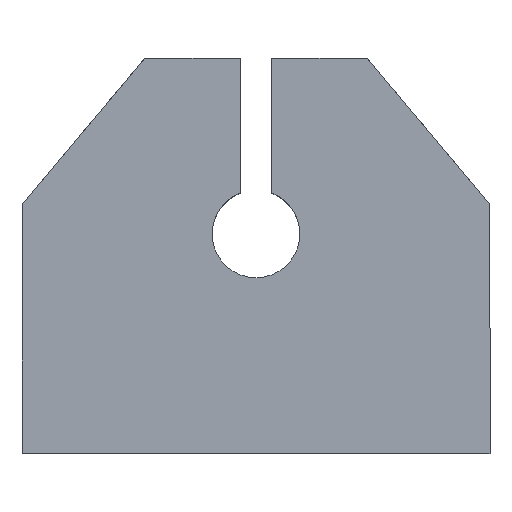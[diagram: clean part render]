
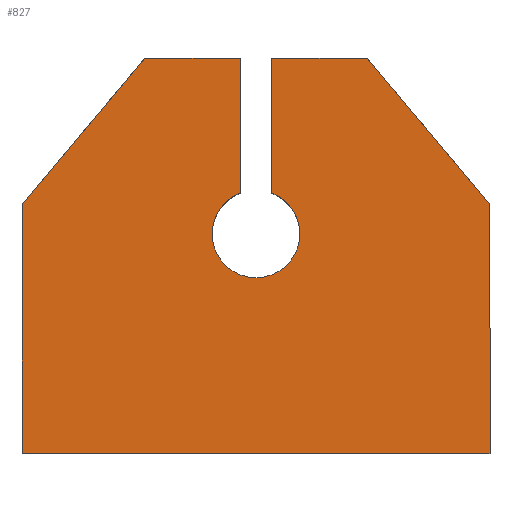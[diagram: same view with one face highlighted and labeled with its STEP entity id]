
A CAD part, top view. The second image highlights one B-rep face of the part: STEP entity #827.
In plain terms, the highlighted planar face has unit normal (0, 0, 1).
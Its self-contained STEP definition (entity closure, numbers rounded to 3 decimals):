
#15 = AXIS2_PLACEMENT_3D ( 'NONE', #86, #574, #474 ) ;
#26 = DIRECTION ( 'NONE',  ( 0., 0., 1. ) ) ;
#33 = DIRECTION ( 'NONE',  ( -0.643, 0.766, 0. ) ) ;
#41 = CARTESIAN_POINT ( 'NONE',  ( 0., 1.5, 8. ) ) ;
#46 = VERTEX_POINT ( 'NONE', #784 ) ;
#50 = ORIENTED_EDGE ( 'NONE', *, *, #386, .T. ) ;
#59 = VERTEX_POINT ( 'NONE', #680 ) ;
#62 = CARTESIAN_POINT ( 'NONE',  ( -3., 1.5, 8. ) ) ;
#82 = VERTEX_POINT ( 'NONE', #103 ) ;
#86 = CARTESIAN_POINT ( 'NONE',  ( 0., 1.5, 8. ) ) ;
#90 = VECTOR ( 'NONE', #407, 1000. ) ;
#103 = CARTESIAN_POINT ( 'NONE',  ( 3., 1.5, 8. ) ) ;
#134 = VECTOR ( 'NONE', #33, 1000. ) ;
#136 = DIRECTION ( 'NONE',  ( -1., 0., 0. ) ) ;
#141 = ORIENTED_EDGE ( 'NONE', *, *, #1054, .F. ) ;
#147 = CARTESIAN_POINT ( 'NONE',  ( -11.113, 9.325, 8. ) ) ;
#156 = VERTEX_POINT ( 'NONE', #603 ) ;
#181 = ORIENTED_EDGE ( 'NONE', *, *, #925, .F. ) ;
#214 = DIRECTION ( 'NONE',  ( 0., -1., 0. ) ) ;
#221 = DIRECTION ( 'NONE',  ( 1., 0., 0. ) ) ;
#224 = CARTESIAN_POINT ( 'NONE',  ( 0., 0., 8. ) ) ;
#231 = VECTOR ( 'NONE', #1096, 1000. ) ;
#249 = AXIS2_PLACEMENT_3D ( 'NONE', #1002, #26, #221 ) ;
#251 = EDGE_CURVE ( 'NONE', #593, #82, #478, .T. ) ;
#263 = VERTEX_POINT ( 'NONE', #781 ) ;
#306 = LINE ( 'NONE', #519, #622 ) ;
#324 = CARTESIAN_POINT ( 'NONE',  ( -16., -13.5, 8. ) ) ;
#327 = CARTESIAN_POINT ( 'NONE',  ( -1.075, 4.301, 8. ) ) ;
#331 = ORIENTED_EDGE ( 'NONE', *, *, #548, .T. ) ;
#332 = LINE ( 'NONE', #147, #616 ) ;
#333 = CARTESIAN_POINT ( 'NONE',  ( -16., 13.5, 8. ) ) ;
#335 = CARTESIAN_POINT ( 'NONE',  ( 7.609, 13.5, 8. ) ) ;
#376 = ORIENTED_EDGE ( 'NONE', *, *, #778, .T. ) ;
#386 = EDGE_CURVE ( 'NONE', #928, #1034, #711, .T. ) ;
#401 = CARTESIAN_POINT ( 'NONE',  ( 16., -13.5, 8. ) ) ;
#407 = DIRECTION ( 'NONE',  ( 0., 1., 0. ) ) ;
#418 = DIRECTION ( 'NONE',  ( -1., 0., 0. ) ) ;
#446 = CARTESIAN_POINT ( 'NONE',  ( -1.075, 13.5, 8. ) ) ;
#457 = AXIS2_PLACEMENT_3D ( 'NONE', #41, #613, #712 ) ;
#464 = ORIENTED_EDGE ( 'NONE', *, *, #589, .T. ) ;
#474 = DIRECTION ( 'NONE',  ( 1., 0., 0. ) ) ;
#478 = CIRCLE ( 'NONE', #15, 3. ) ;
#519 = CARTESIAN_POINT ( 'NONE',  ( -16., 13.5, 8. ) ) ;
#527 = CARTESIAN_POINT ( 'NONE',  ( 1.075, 13.5, 8. ) ) ;
#548 = EDGE_CURVE ( 'NONE', #59, #46, #332, .T. ) ;
#564 = VERTEX_POINT ( 'NONE', #446 ) ;
#574 = DIRECTION ( 'NONE',  ( 0., 0., 1. ) ) ;
#589 = EDGE_CURVE ( 'NONE', #46, #928, #1039, .T. ) ;
#593 = VERTEX_POINT ( 'NONE', #62 ) ;
#603 = CARTESIAN_POINT ( 'NONE',  ( 16., 3.5, 8. ) ) ;
#613 = DIRECTION ( 'NONE',  ( 0., 0., 1. ) ) ;
#615 = LINE ( 'NONE', #527, #706 ) ;
#616 = VECTOR ( 'NONE', #628, 1000. ) ;
#622 = VECTOR ( 'NONE', #418, 1000. ) ;
#628 = DIRECTION ( 'NONE',  ( -0.643, -0.766, 0. ) ) ;
#680 = CARTESIAN_POINT ( 'NONE',  ( -7.609, 13.5, 8. ) ) ;
#700 = LINE ( 'NONE', #1007, #767 ) ;
#706 = VECTOR ( 'NONE', #812, 1000. ) ;
#711 = LINE ( 'NONE', #813, #231 ) ;
#712 = DIRECTION ( 'NONE',  ( 1., 0., 0. ) ) ;
#713 = CARTESIAN_POINT ( 'NONE',  ( 1.075, 13.5, 8. ) ) ;
#724 = LINE ( 'NONE', #821, #90 ) ;
#758 = EDGE_LOOP ( 'NONE', ( #1229, #376, #181, #942, #945, #141, #777, #331, #464, #50, #1043, #1125 ) ) ;
#760 = EDGE_CURVE ( 'NONE', #765, #593, #1240, .T. ) ;
#765 = VERTEX_POINT ( 'NONE', #327 ) ;
#767 = VECTOR ( 'NONE', #136, 1000. ) ;
#777 = ORIENTED_EDGE ( 'NONE', *, *, #964, .T. ) ;
#778 = EDGE_CURVE ( 'NONE', #832, #263, #615, .T. ) ;
#781 = CARTESIAN_POINT ( 'NONE',  ( 1.075, 4.301, 8. ) ) ;
#784 = CARTESIAN_POINT ( 'NONE',  ( -16., 3.5, 8. ) ) ;
#808 = DIRECTION ( 'NONE',  ( 1., 0., 0. ) ) ;
#812 = DIRECTION ( 'NONE',  ( 0., -1., 0. ) ) ;
#813 = CARTESIAN_POINT ( 'NONE',  ( -16., -13.5, 8. ) ) ;
#821 = CARTESIAN_POINT ( 'NONE',  ( 16., 13.5, 8. ) ) ;
#827 = ADVANCED_FACE ( 'NONE', ( #898 ), #998, .T. ) ;
#832 = VERTEX_POINT ( 'NONE', #713 ) ;
#833 = DIRECTION ( 'NONE',  ( 0., -1., 0. ) ) ;
#885 = EDGE_CURVE ( 'NONE', #156, #1111, #1094, .T. ) ;
#894 = LINE ( 'NONE', #1081, #1155 ) ;
#898 = FACE_OUTER_BOUND ( 'NONE', #758, .T. ) ;
#919 = DIRECTION ( 'NONE',  ( 0., 0., 1. ) ) ;
#925 = EDGE_CURVE ( 'NONE', #82, #263, #1005, .T. ) ;
#928 = VERTEX_POINT ( 'NONE', #324 ) ;
#942 = ORIENTED_EDGE ( 'NONE', *, *, #251, .F. ) ;
#945 = ORIENTED_EDGE ( 'NONE', *, *, #760, .F. ) ;
#964 = EDGE_CURVE ( 'NONE', #564, #59, #306, .T. ) ;
#971 = EDGE_CURVE ( 'NONE', #1034, #156, #724, .T. ) ;
#986 = VECTOR ( 'NONE', #833, 1000. ) ;
#998 = PLANE ( 'NONE',  #1196 ) ;
#1002 = CARTESIAN_POINT ( 'NONE',  ( 0., 1.5, 8. ) ) ;
#1005 = CIRCLE ( 'NONE', #457, 3. ) ;
#1007 = CARTESIAN_POINT ( 'NONE',  ( -16., 13.5, 8. ) ) ;
#1010 = EDGE_CURVE ( 'NONE', #1111, #832, #700, .T. ) ;
#1034 = VERTEX_POINT ( 'NONE', #401 ) ;
#1039 = LINE ( 'NONE', #333, #986 ) ;
#1043 = ORIENTED_EDGE ( 'NONE', *, *, #971, .T. ) ;
#1054 = EDGE_CURVE ( 'NONE', #564, #765, #894, .T. ) ;
#1081 = CARTESIAN_POINT ( 'NONE',  ( -1.075, 13.5, 8. ) ) ;
#1084 = CARTESIAN_POINT ( 'NONE',  ( 11.113, 9.325, 8. ) ) ;
#1094 = LINE ( 'NONE', #1084, #134 ) ;
#1096 = DIRECTION ( 'NONE',  ( 1., 0., 0. ) ) ;
#1111 = VERTEX_POINT ( 'NONE', #335 ) ;
#1125 = ORIENTED_EDGE ( 'NONE', *, *, #885, .T. ) ;
#1155 = VECTOR ( 'NONE', #214, 1000. ) ;
#1196 = AXIS2_PLACEMENT_3D ( 'NONE', #224, #919, #808 ) ;
#1229 = ORIENTED_EDGE ( 'NONE', *, *, #1010, .T. ) ;
#1240 = CIRCLE ( 'NONE', #249, 3. ) ;
